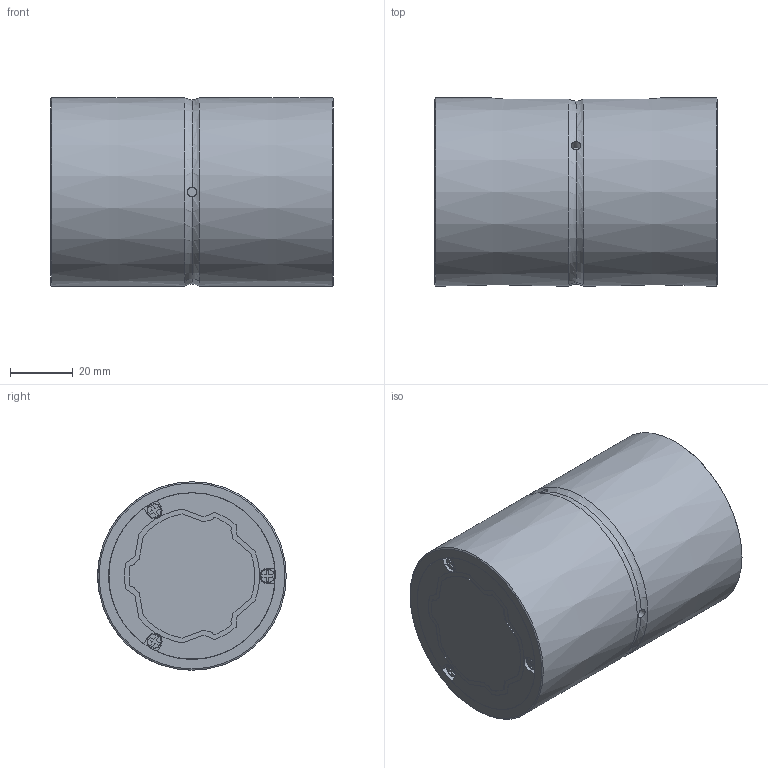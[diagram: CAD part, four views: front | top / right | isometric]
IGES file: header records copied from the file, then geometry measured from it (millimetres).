
Start section: Data from Parasolid IGES Translator 26.0.171, Copyright(c) 2006 Siemens PLM Software. All Rights Reserved.
Global section: file name: SLS40190(00).igs; native system: By Siemens PLM Incorporated; preprocessor: XPlus GENERIC/IGES 26.0.171; author: Noname; organization: Noname; date: 20240523.114659; units: millimetre
Bounding box: 90 x 60 x 60 mm (x, y, z)
Surface area: 46894.5 mm2 (no closed solid volume)
Topology: 0 solids, 0 shells, 279 faces, 1526 edges, 1494 vertices
Faces by surface type: extrusion 164, revolution 115
